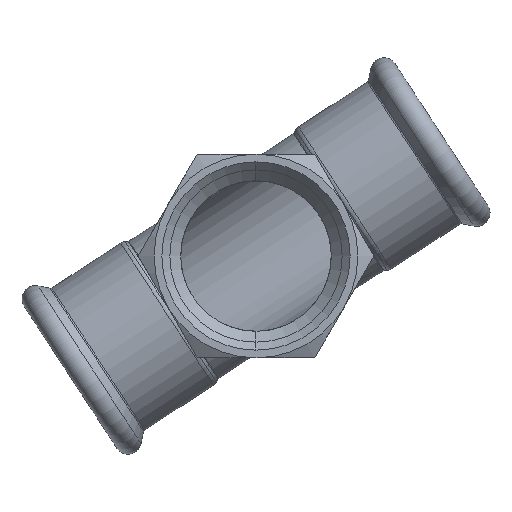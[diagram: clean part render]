
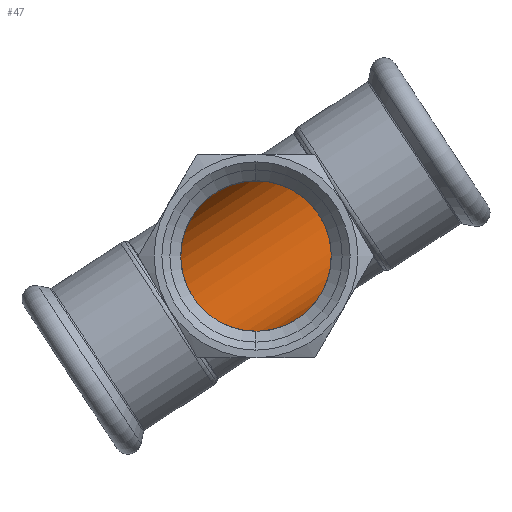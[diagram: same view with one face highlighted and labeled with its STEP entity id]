
A CAD part, front view. The second image highlights one B-rep face of the part: STEP entity #47.
In plain terms, the highlighted cylindrical face has radius 17 mm (diameter 34 mm), a partial arc.
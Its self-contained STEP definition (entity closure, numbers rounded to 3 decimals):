
#13 = DIRECTION ( 'NONE',  ( -1., 0., 0. ) ) ;
#47 = ADVANCED_FACE ( 'NONE', ( #2502 ), #124, .F. ) ;
#72 = DIRECTION ( 'NONE',  ( -1., 0., 0. ) ) ;
#96 = DIRECTION ( 'NONE',  ( 0., 0., 1. ) ) ;
#116 = AXIS2_PLACEMENT_3D ( 'NONE', #1664, #72, #96 ) ;
#124 = CYLINDRICAL_SURFACE ( 'NONE', #116, 17. ) ;
#134 = EDGE_CURVE ( 'NONE', #787, #1864, #868, .T. ) ;
#138 = EDGE_LOOP ( 'NONE', ( #3143, #3079, #2608, #2507, #1271, #3175 ) ) ;
#205 = VECTOR ( 'NONE', #1528, 1000. ) ;
#258 = VERTEX_POINT ( 'NONE', #2527 ) ;
#268 = DIRECTION ( 'NONE',  ( 0., 0., 1. ) ) ;
#323 = CARTESIAN_POINT ( 'NONE',  ( 27.146, 0., 17. ) ) ;
#501 = EDGE_CURVE ( 'NONE', #258, #1640, #863, .T. ) ;
#684 = CARTESIAN_POINT ( 'NONE',  ( 22.154, 0., -17. ) ) ;
#787 = VERTEX_POINT ( 'NONE', #1616 ) ;
#841 = DIRECTION ( 'NONE',  ( -1., 0., 0. ) ) ;
#863 = LINE ( 'NONE', #2703, #2700 ) ;
#868 = LINE ( 'NONE', #323, #951 ) ;
#912 = DIRECTION ( 'NONE',  ( -1., 0., 0. ) ) ;
#924 = CARTESIAN_POINT ( 'NONE',  ( -22.154, 0., 0. ) ) ;
#951 = VECTOR ( 'NONE', #841, 1000. ) ;
#1031 = CARTESIAN_POINT ( 'NONE',  ( -22.154, 0., -17. ) ) ;
#1052 = CARTESIAN_POINT ( 'NONE',  ( 22.154, 0., 0. ) ) ;
#1089 = EDGE_CURVE ( 'NONE', #2056, #2518, #3272, .T. ) ;
#1092 = DIRECTION ( 'NONE',  ( -1., 0., 0. ) ) ;
#1144 = CARTESIAN_POINT ( 'NONE',  ( 27.146, 0., -17. ) ) ;
#1149 = CIRCLE ( 'NONE', #3270, 17. ) ;
#1229 = LINE ( 'NONE', #2865, #205 ) ;
#1271 = ORIENTED_EDGE ( 'NONE', *, *, #134, .F. ) ;
#1327 = CARTESIAN_POINT ( 'NONE',  ( 22.154, 0., 17. ) ) ;
#1451 = DIRECTION ( 'NONE',  ( -1., 0., 0. ) ) ;
#1528 = DIRECTION ( 'NONE',  ( -1., 0., 0. ) ) ;
#1616 = CARTESIAN_POINT ( 'NONE',  ( 0., 0., 17. ) ) ;
#1640 = VERTEX_POINT ( 'NONE', #1031 ) ;
#1664 = CARTESIAN_POINT ( 'NONE',  ( 27.146, 0., 0. ) ) ;
#1691 = DIRECTION ( 'NONE',  ( 0., 0., 1. ) ) ;
#1863 = AXIS2_PLACEMENT_3D ( 'NONE', #1052, #13, #268 ) ;
#1864 = VERTEX_POINT ( 'NONE', #3201 ) ;
#1917 = EDGE_CURVE ( 'NONE', #1640, #1864, #1149, .T. ) ;
#2056 = VERTEX_POINT ( 'NONE', #684 ) ;
#2101 = VECTOR ( 'NONE', #912, 1000. ) ;
#2483 = EDGE_CURVE ( 'NONE', #2518, #787, #1229, .T. ) ;
#2502 = FACE_OUTER_BOUND ( 'NONE', #138, .T. ) ;
#2507 = ORIENTED_EDGE ( 'NONE', *, *, #1917, .T. ) ;
#2518 = VERTEX_POINT ( 'NONE', #1327 ) ;
#2527 = CARTESIAN_POINT ( 'NONE',  ( 0., 0., -17. ) ) ;
#2608 = ORIENTED_EDGE ( 'NONE', *, *, #501, .T. ) ;
#2700 = VECTOR ( 'NONE', #1092, 1000. ) ;
#2703 = CARTESIAN_POINT ( 'NONE',  ( 27.146, 0., -17. ) ) ;
#2865 = CARTESIAN_POINT ( 'NONE',  ( 27.146, 0., 17. ) ) ;
#3028 = LINE ( 'NONE', #1144, #2101 ) ;
#3079 = ORIENTED_EDGE ( 'NONE', *, *, #3083, .T. ) ;
#3083 = EDGE_CURVE ( 'NONE', #2056, #258, #3028, .T. ) ;
#3143 = ORIENTED_EDGE ( 'NONE', *, *, #1089, .F. ) ;
#3175 = ORIENTED_EDGE ( 'NONE', *, *, #2483, .F. ) ;
#3201 = CARTESIAN_POINT ( 'NONE',  ( -22.154, 0., 17. ) ) ;
#3270 = AXIS2_PLACEMENT_3D ( 'NONE', #924, #1451, #1691 ) ;
#3272 = CIRCLE ( 'NONE', #1863, 17. ) ;
